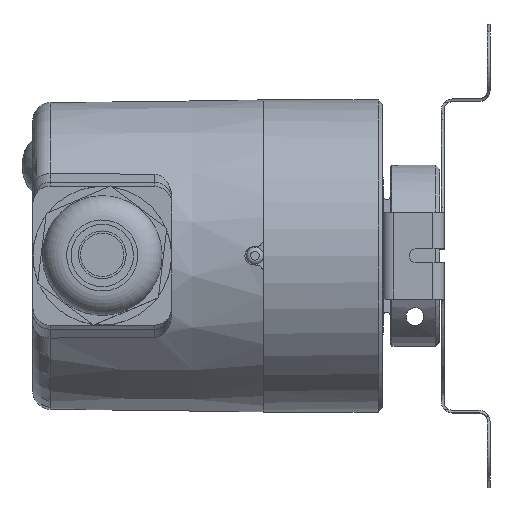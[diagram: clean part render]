
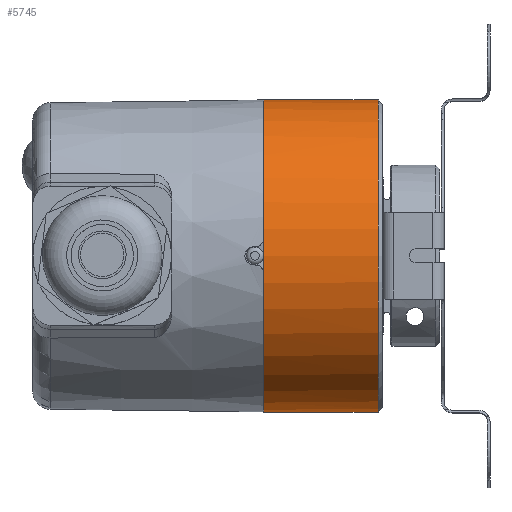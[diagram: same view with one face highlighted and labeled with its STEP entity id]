
A CAD part, top view. The second image highlights one B-rep face of the part: STEP entity #5745.
In plain terms, the highlighted cylindrical face has radius 18 mm (diameter 36 mm), a full revolution.
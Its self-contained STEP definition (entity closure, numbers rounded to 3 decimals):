
#167 = DIRECTION ( 'NONE',  ( -1., 0., 0. ) ) ;
#425 = CIRCLE ( 'NONE', #8773, 18. ) ;
#520 = DIRECTION ( 'NONE',  ( 0., 0., -1. ) ) ;
#665 = CYLINDRICAL_SURFACE ( 'NONE', #5724, 18. ) ;
#736 = VECTOR ( 'NONE', #10140, 1000. ) ;
#860 = VERTEX_POINT ( 'NONE', #3261 ) ;
#1281 = CARTESIAN_POINT ( 'NONE',  ( -0.5, 7., -16.583 ) ) ;
#1905 = EDGE_CURVE ( 'NONE', #7888, #860, #3368, .T. ) ;
#2342 = EDGE_LOOP ( 'NONE', ( #9321 ) ) ;
#2591 = CIRCLE ( 'NONE', #8048, 18. ) ;
#2683 = ORIENTED_EDGE ( 'NONE', *, *, #10063, .F. ) ;
#2782 = CARTESIAN_POINT ( 'NONE',  ( -0.5, -7., -16.583 ) ) ;
#2805 = CARTESIAN_POINT ( 'NONE',  ( 1.958, -7., -16.583 ) ) ;
#2819 = DIRECTION ( 'NONE',  ( 1., 0., 0. ) ) ;
#2948 = ORIENTED_EDGE ( 'NONE', *, *, #1905, .T. ) ;
#3040 = EDGE_LOOP ( 'NONE', ( #10218, #2948, #2683, #3327 ) ) ;
#3261 = CARTESIAN_POINT ( 'NONE',  ( -1., 7., -16.583 ) ) ;
#3302 = CARTESIAN_POINT ( 'NONE',  ( -1., 0., 0. ) ) ;
#3327 = ORIENTED_EDGE ( 'NONE', *, *, #6896, .T. ) ;
#3332 = EDGE_CURVE ( 'NONE', #8177, #8177, #2591, .T. ) ;
#3368 = LINE ( 'NONE', #8955, #3500 ) ;
#3500 = VECTOR ( 'NONE', #9786, 1000. ) ;
#4109 = DIRECTION ( 'NONE',  ( 0., 0., -1. ) ) ;
#5117 = CARTESIAN_POINT ( 'NONE',  ( -0.5, 0., 0. ) ) ;
#5256 = LINE ( 'NONE', #2805, #736 ) ;
#5463 = DIRECTION ( 'NONE',  ( 1., 0., 0. ) ) ;
#5704 = CARTESIAN_POINT ( 'NONE',  ( -1., -7., -16.583 ) ) ;
#5724 = AXIS2_PLACEMENT_3D ( 'NONE', #10159, #2819, #10195 ) ;
#5738 = AXIS2_PLACEMENT_3D ( 'NONE', #3302, #8973, #4109 ) ;
#5745 = ADVANCED_FACE ( 'NONE', ( #10383, #6218 ), #665, .T. ) ;
#5934 = DIRECTION ( 'NONE',  ( 0., 0., 1. ) ) ;
#6149 = CARTESIAN_POINT ( 'NONE',  ( -13.7, 0., -18. ) ) ;
#6218 = FACE_OUTER_BOUND ( 'NONE', #2342, .T. ) ;
#6896 = EDGE_CURVE ( 'NONE', #9024, #10295, #5256, .T. ) ;
#7733 = EDGE_CURVE ( 'NONE', #10295, #7888, #425, .T. ) ;
#7811 = CIRCLE ( 'NONE', #5738, 18. ) ;
#7888 = VERTEX_POINT ( 'NONE', #1281 ) ;
#8048 = AXIS2_PLACEMENT_3D ( 'NONE', #10312, #5463, #520 ) ;
#8177 = VERTEX_POINT ( 'NONE', #6149 ) ;
#8773 = AXIS2_PLACEMENT_3D ( 'NONE', #5117, #167, #5934 ) ;
#8955 = CARTESIAN_POINT ( 'NONE',  ( 1.958, 7., -16.583 ) ) ;
#8973 = DIRECTION ( 'NONE',  ( 1., 0., 0. ) ) ;
#9024 = VERTEX_POINT ( 'NONE', #5704 ) ;
#9321 = ORIENTED_EDGE ( 'NONE', *, *, #3332, .T. ) ;
#9786 = DIRECTION ( 'NONE',  ( -1., 0., 0. ) ) ;
#10063 = EDGE_CURVE ( 'NONE', #9024, #860, #7811, .T. ) ;
#10140 = DIRECTION ( 'NONE',  ( 1., 0., 0. ) ) ;
#10159 = CARTESIAN_POINT ( 'NONE',  ( 1.958, 0., 0. ) ) ;
#10195 = DIRECTION ( 'NONE',  ( 0., 0., -1. ) ) ;
#10218 = ORIENTED_EDGE ( 'NONE', *, *, #7733, .T. ) ;
#10295 = VERTEX_POINT ( 'NONE', #2782 ) ;
#10312 = CARTESIAN_POINT ( 'NONE',  ( -13.7, 0., 0. ) ) ;
#10383 = FACE_OUTER_BOUND ( 'NONE', #3040, .T. ) ;
